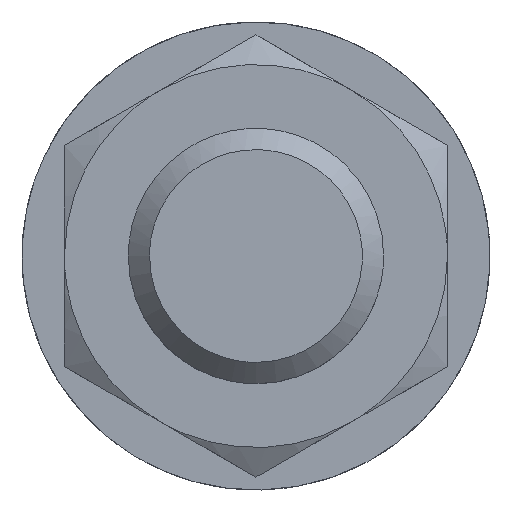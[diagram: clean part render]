
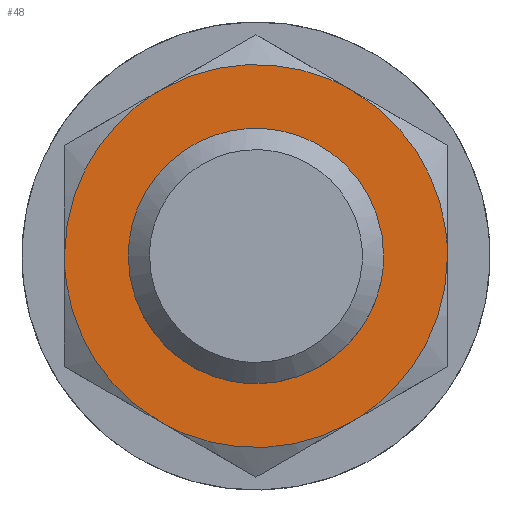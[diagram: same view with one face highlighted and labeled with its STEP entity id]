
A CAD part, left-side view. The second image highlights one B-rep face of the part: STEP entity #48.
In plain terms, the highlighted planar face has unit normal (-1, 0, 0).
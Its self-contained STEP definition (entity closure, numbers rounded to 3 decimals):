
#39=FACE_BOUND('',#135,.T.);
#48=ADVANCED_FACE('',(#90,#39),#650,.T.);
#90=FACE_OUTER_BOUND('',#134,.T.);
#134=EDGE_LOOP('',(#198,#199,#200,#201,#202,#203));
#135=EDGE_LOOP('',(#204,#205));
#198=ORIENTED_EDGE('',*,*,#397,.F.);
#199=ORIENTED_EDGE('',*,*,#399,.F.);
#200=ORIENTED_EDGE('',*,*,#400,.F.);
#201=ORIENTED_EDGE('',*,*,#398,.F.);
#202=ORIENTED_EDGE('',*,*,#396,.F.);
#203=ORIENTED_EDGE('',*,*,#395,.F.);
#204=ORIENTED_EDGE('',*,*,#385,.F.);
#205=ORIENTED_EDGE('',*,*,#383,.F.);
#383=EDGE_CURVE('',#596,#586,#507,.T.);
#385=EDGE_CURVE('',#586,#596,#508,.T.);
#395=EDGE_CURVE('',#590,#591,#516,.T.);
#396=EDGE_CURVE('',#591,#595,#517,.T.);
#397=EDGE_CURVE('',#592,#590,#518,.T.);
#398=EDGE_CURVE('',#595,#594,#519,.T.);
#399=EDGE_CURVE('',#593,#592,#520,.T.);
#400=EDGE_CURVE('',#594,#593,#521,.T.);
#507=(
BOUNDED_CURVE()
B_SPLINE_CURVE(2,(#1153,#1154,#1155,#1156,#1157),.UNSPECIFIED.,.F.,.F.)
B_SPLINE_CURVE_WITH_KNOTS((3,2,3),(37.698,56.548,75.397),
 .UNSPECIFIED.)
CURVE()
GEOMETRIC_REPRESENTATION_ITEM()
RATIONAL_B_SPLINE_CURVE((1.,0.707,1.,0.707,1.))
REPRESENTATION_ITEM('')
);
#508=(
BOUNDED_CURVE()
B_SPLINE_CURVE(2,(#1160,#1161,#1162,#1163,#1164),.UNSPECIFIED.,.F.,.F.)
B_SPLINE_CURVE_WITH_KNOTS((3,2,3),(0.,18.849,37.698),
 .UNSPECIFIED.)
CURVE()
GEOMETRIC_REPRESENTATION_ITEM()
RATIONAL_B_SPLINE_CURVE((1.,0.707,1.,0.707,1.))
REPRESENTATION_ITEM('')
);
#516=(
BOUNDED_CURVE()
B_SPLINE_CURVE(2,(#1202,#1203,#1204),.UNSPECIFIED.,.F.,.F.)
B_SPLINE_CURVE_WITH_KNOTS((3,3),(0.,18.85),.UNSPECIFIED.)
CURVE()
GEOMETRIC_REPRESENTATION_ITEM()
RATIONAL_B_SPLINE_CURVE((1.,0.866,1.))
REPRESENTATION_ITEM('')
);
#517=(
BOUNDED_CURVE()
B_SPLINE_CURVE(2,(#1205,#1206,#1207),.UNSPECIFIED.,.F.,.F.)
B_SPLINE_CURVE_WITH_KNOTS((3,3),(0.,18.85),.UNSPECIFIED.)
CURVE()
GEOMETRIC_REPRESENTATION_ITEM()
RATIONAL_B_SPLINE_CURVE((1.,0.866,1.))
REPRESENTATION_ITEM('')
);
#518=(
BOUNDED_CURVE()
B_SPLINE_CURVE(2,(#1208,#1209,#1210),.UNSPECIFIED.,.F.,.F.)
B_SPLINE_CURVE_WITH_KNOTS((3,3),(0.,18.85),.UNSPECIFIED.)
CURVE()
GEOMETRIC_REPRESENTATION_ITEM()
RATIONAL_B_SPLINE_CURVE((1.,0.866,1.))
REPRESENTATION_ITEM('')
);
#519=(
BOUNDED_CURVE()
B_SPLINE_CURVE(2,(#1211,#1212,#1213),.UNSPECIFIED.,.F.,.F.)
B_SPLINE_CURVE_WITH_KNOTS((3,3),(0.,18.85),.UNSPECIFIED.)
CURVE()
GEOMETRIC_REPRESENTATION_ITEM()
RATIONAL_B_SPLINE_CURVE((1.,0.866,1.))
REPRESENTATION_ITEM('')
);
#520=(
BOUNDED_CURVE()
B_SPLINE_CURVE(2,(#1214,#1215,#1216),.UNSPECIFIED.,.F.,.F.)
B_SPLINE_CURVE_WITH_KNOTS((3,3),(0.,18.85),.UNSPECIFIED.)
CURVE()
GEOMETRIC_REPRESENTATION_ITEM()
RATIONAL_B_SPLINE_CURVE((1.,0.866,1.))
REPRESENTATION_ITEM('')
);
#521=(
BOUNDED_CURVE()
B_SPLINE_CURVE(2,(#1217,#1218,#1219),.UNSPECIFIED.,.F.,.F.)
B_SPLINE_CURVE_WITH_KNOTS((3,3),(0.,18.85),.UNSPECIFIED.)
CURVE()
GEOMETRIC_REPRESENTATION_ITEM()
RATIONAL_B_SPLINE_CURVE((1.,0.866,1.))
REPRESENTATION_ITEM('')
);
#586=VERTEX_POINT('',#1121);
#590=VERTEX_POINT('',#1125);
#591=VERTEX_POINT('',#1126);
#592=VERTEX_POINT('',#1127);
#593=VERTEX_POINT('',#1128);
#594=VERTEX_POINT('',#1129);
#595=VERTEX_POINT('',#1130);
#596=VERTEX_POINT('',#1131);
#650=PLANE('',#764);
#764=AXIS2_PLACEMENT_3D('',#878,#790,$);
#790=DIRECTION('',(-1.,0.,0.));
#878=CARTESIAN_POINT('',(34.,-21.72,-25.062));
#1121=CARTESIAN_POINT('',(34.,12.,0.));
#1125=CARTESIAN_POINT('',(34.,-9.,-15.588));
#1126=CARTESIAN_POINT('',(34.,9.,-15.588));
#1127=CARTESIAN_POINT('',(34.,-18.,0.));
#1128=CARTESIAN_POINT('',(34.,-9.,15.588));
#1129=CARTESIAN_POINT('',(34.,9.,15.588));
#1130=CARTESIAN_POINT('',(34.,18.,0.));
#1131=CARTESIAN_POINT('',(34.,-12.,0.));
#1153=CARTESIAN_POINT('',(34.,-12.,0.));
#1154=CARTESIAN_POINT('',(34.,-12.,12.));
#1155=CARTESIAN_POINT('',(34.,0.,12.));
#1156=CARTESIAN_POINT('',(34.,12.,12.));
#1157=CARTESIAN_POINT('',(34.,12.,0.));
#1160=CARTESIAN_POINT('',(34.,12.,0.));
#1161=CARTESIAN_POINT('',(34.,12.,-12.));
#1162=CARTESIAN_POINT('',(34.,0.,-12.));
#1163=CARTESIAN_POINT('',(34.,-12.,-12.));
#1164=CARTESIAN_POINT('',(34.,-12.,0.));
#1202=CARTESIAN_POINT('',(34.,-9.,-15.588));
#1203=CARTESIAN_POINT('',(34.,0.,-20.785));
#1204=CARTESIAN_POINT('',(34.,9.,-15.588));
#1205=CARTESIAN_POINT('',(34.,9.,-15.588));
#1206=CARTESIAN_POINT('',(34.,18.,-10.392));
#1207=CARTESIAN_POINT('',(34.,18.,0.));
#1208=CARTESIAN_POINT('',(34.,-18.,0.));
#1209=CARTESIAN_POINT('',(34.,-18.,-10.392));
#1210=CARTESIAN_POINT('',(34.,-9.,-15.588));
#1211=CARTESIAN_POINT('',(34.,18.,0.));
#1212=CARTESIAN_POINT('',(34.,18.,10.392));
#1213=CARTESIAN_POINT('',(34.,9.,15.588));
#1214=CARTESIAN_POINT('',(34.,-9.,15.588));
#1215=CARTESIAN_POINT('',(34.,-18.,10.392));
#1216=CARTESIAN_POINT('',(34.,-18.,0.));
#1217=CARTESIAN_POINT('',(34.,9.,15.588));
#1218=CARTESIAN_POINT('',(34.,0.,20.785));
#1219=CARTESIAN_POINT('',(34.,-9.,15.588));
